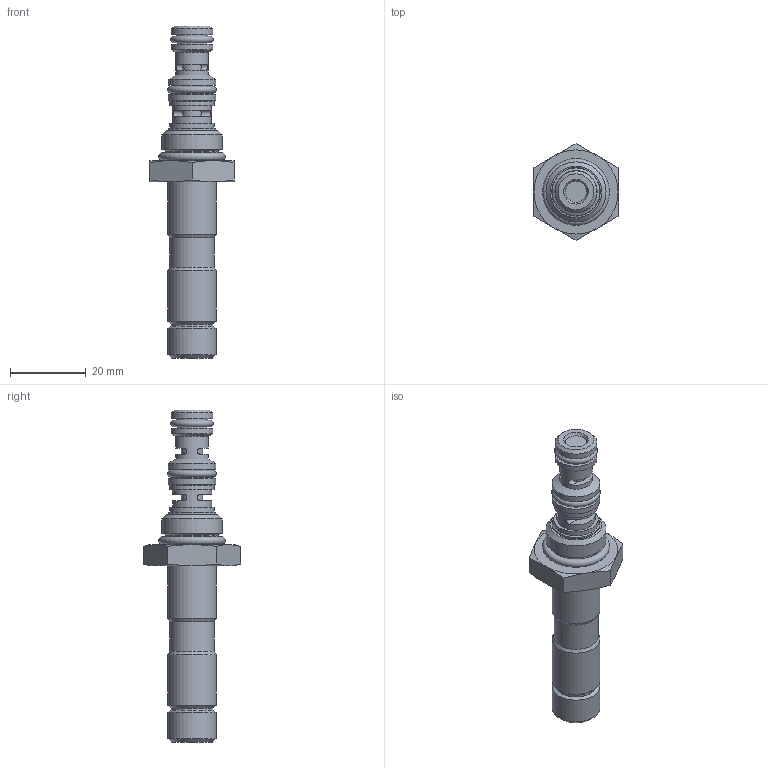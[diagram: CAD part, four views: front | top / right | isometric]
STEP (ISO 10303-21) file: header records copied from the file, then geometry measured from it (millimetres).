
FILE_DESCRIPTION(/* description */ (''),/* implementation_level */ '2;1');
FILE_NAME(/* name */ 'C:\Users\Michael.DELTA\Desktop\UCS3T00-3D Full.stp',/* time_stamp */ '2016-12-06T10:36:38-06:00',/* author */ ('michael'),/* organization */ (''),/* preprocessor_version */ 'ST-DEVELOPER v16.1',/* originating_system */ 'Autodesk Inventor 2016',/* authorisation */ '');
FILE_SCHEMA (('AUTOMOTIVE_DESIGN { 1 0 10303 214 3 1 1 }'));
Length unit declared in the file: centimetre
Products named in the file (1): UCS3T00-3D Full
Bounding box: 22.23 x 25.66 x 87.66 mm (x, y, z)
Volume: 11938.3 mm3; surface area: 5255.1 mm2
Topology: 1 solids, 3 shells, 93 faces, 196 edges, 120 vertices
Faces by surface type: cylinder 33, plane 29, cone 26, torus 5
Full cylindrical faces by diameter (mm): 8.166 x2, 8.712 x1, 9.842 x2, 10.312 x1, 11.024 x2, 11.049 x1, 11.684 x1, 11.786 x2, 12.624 x3, 12.675 x3, 13.818 x2, 15.875 x1
Entity records: 2527 total; most frequent: CARTESIAN_POINT 676, DIRECTION 370, ORIENTED_EDGE 286, AXIS2_PLACEMENT_3D 174, EDGE_LOOP 150, EDGE_CURVE 142, VERTEX_POINT 108, FACE_OUTER_BOUND 93
